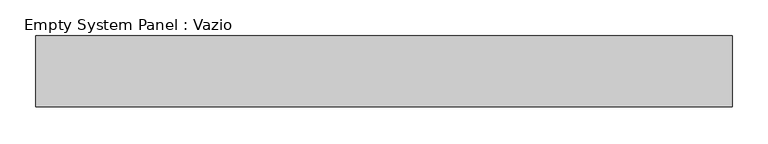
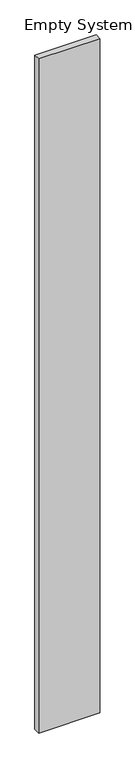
"""IFC4 building model written with IfcOpenShell, lengths in millimetres: plate geometry, Empty System Panel : Vazio."""

from ifc_helpers import new_model, si_unit, frame, origin, place, context, project, spatial, polyline, outline, extrude, source, transform, mapped, element, save


def empty_system_panel_vazio_e37dec19(model_context):
    return source(origin(), model_context, "Body", "SweptSolid", [
        extrude(outline(polyline([(0.0, -490.0), (0.0, 490.0), (11384.5957019, 490.0), (11384.5342427, -490.0), (0.0, -490.0)])), frame((0.0, 50.0, 0.0), z_axis=(0.0, 1.0, 0.0), x_axis=(0.0, 0.0, 1.0)), (0.0, 0.0, 1.0), 100.0),
    ])


if __name__ == "__main__":
    model = new_model("IFC4")
    model_context = context("Model", 3, world=origin())
    ifc_project = project(units=[si_unit("LENGTHUNIT", "METRE", prefix="MILLI")], contexts=[model_context])
    site = spatial("IfcSite", under=ifc_project)
    building = spatial("IfcBuilding", under=site)
    placement = place(None, origin())
    empty_system_panel_vazio_shape = empty_system_panel_vazio_e37dec19(model_context)
    element("IfcPlate", 1, ObjectType="Empty System Panel : Vazio", at=placement, inside=building, context=model_context, shape_type="MappedRepresentation", body=[
        mapped(empty_system_panel_vazio_shape, transform((0.0, 0.0, 0.0), x_axis=(1.0, 0.0, 0.0), y_axis=(0.0, 1.0, 0.0), z_axis=(0.0, 0.0, 1.0))),
    ])
    save(model, "model.ifc")
